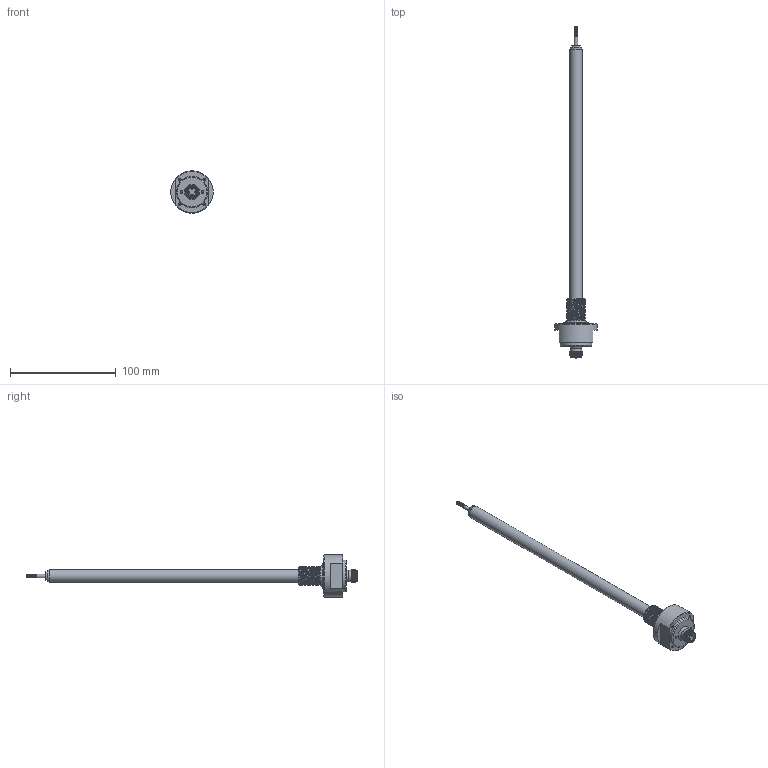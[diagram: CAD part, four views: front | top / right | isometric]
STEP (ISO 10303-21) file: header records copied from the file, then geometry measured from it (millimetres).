
FILE_DESCRIPTION( ( 'Unknown' ), '1' );
FILE_NAME( 'N:/Engineering/CAD/LVDT/HYD/Kunden-3D-Modell/SM140-HYD-18-S-M12.stp', 'Unknown', ( 'Unknown' ), ( 'Unknown' ), 'PSStep 17.0.49', 'Unknown', ' ' );
FILE_SCHEMA( ( 'AUTOMOTIVE_DESIGN { 1 0 10303 214 1 1 1 1 }' ) );
Length unit declared in the file: millimetre
Products named in the file (11): Einbaustecker_Waycon; Einbausteckverbinder_Waycon; Kontaktstift_M12; Assem1; Endkappe; Innenrohr_SM5-HYD; Kernverlängerung_SM5-HYD; SM-HYD-Flansch_M18_vereinfacht; O-Ring_15,4x2,1; Endkappe_HYD-KA_vereinfacht; Aussenrohr_SM140-HYD_vereinfacht
Assembly tree (13 placements, depth 3):
  Assem1
    Endkappe
    Innenrohr_SM5-HYD
    Kernverlängerung_SM5-HYD
    SM-HYD-Flansch_M18_vereinfacht
    O-Ring_15,4x2,1
    Endkappe_HYD-KA_vereinfacht
    Aussenrohr_SM140-HYD_vereinfacht
    Einbaustecker_Waycon
      Einbausteckverbinder_Waycon
      Kontaktstift_M12  x4
Bounding box: 40 x 313.2 x 40 mm (x, y, z)
Volume: 57747.2 mm3; surface area: 25275.3 mm2
Topology: 12 solids, 12 shells, 261 faces, 583 edges, 383 vertices
Faces by surface type: plane 122, cylinder 68, cone 37, extrusion 18, bspline 8, torus 8
Full cylindrical faces by diameter (mm): 0.5 x4, 1 x12, 1.2 x8, 1.8 x4, 2.013 x1, 2.4 x1, 2.5 x4, 2.6 x2, 3 x1, 4 x1, 6 x2, 8 x2, 8.2 x1, 8.3 x1, 9 x1, 9.35 x1, 9.55 x1, 10 x1, 10.05 x1, 10.5 x1, 10.6 x2, 11 x2, 12 x2, 15.8 x1, 22.5 x1, 24 x2, 30 x1, 40 x1
Entity records: 14294 total; most frequent: CARTESIAN_POINT 7955, DIRECTION 870, ORIENTED_EDGE 796, EDGE_CURVE 398, EDGE_LOOP 331, AXIS2_PLACEMENT_3D 327, VERTEX_POINT 309, FACE_OUTER_BOUND 264
